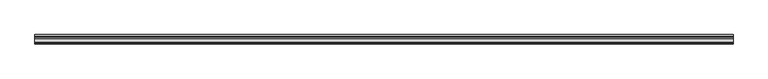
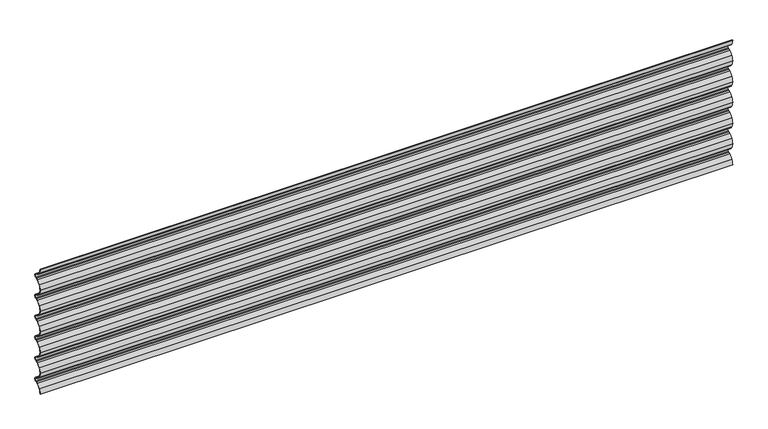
"""IFC4 building model written with IfcOpenShell, lengths in millimetres: plate geometry, Regolare Horizontal 534 : Regolare Horizontal 534."""

from ifc_helpers import new_model, si_unit, point, frame, frame_2d, origin, place, context, project, spatial, polyline, circle_curve, trimmed, segment, composite_curve, outline, extrude, source, transform, mapped, element, save


def plate_bd072c15(model_context):
    return source(origin(), model_context, "Body", "SweptSolid", [
        extrude(outline(composite_curve([segment(trimmed(circle_curve(frame_2d((38.4503244, 0.0)), 37.4503244), [point((6.5021495, 19.5407501))], [point((1.0, 0.0))], True, "CARTESIAN"), True, "CONTINUOUS"), segment(polyline([(1.0, 0.0), (0.0, 0.0)]), True, "CONTINUOUS"), segment(trimmed(circle_curve(frame_2d((38.4503244, 0.0)), 38.4503244), [point((0.0, 0.0))], [point((5.6490681, 20.062528))], False, "CARTESIAN"), True, "CONTINUOUS"), segment(trimmed(circle_curve(frame_2d((32.6206681, 3.5656452)), 31.6166783), [point((5.6490681, 20.062528))], [point((20.878867, 32.9211295))], False, "CARTESIAN"), True, "CONTINUOUS"), segment(polyline([(20.878867, 32.9211295), (28.0423924, 35.7903512), (31.4771017, 37.4367049)]), True, "CONTINUOUS"), segment(trimmed(circle_curve(frame_2d((28.0791236, 44.5257445)), 7.8613445), [point((31.4771017, 37.4367049))], [point((35.9404682, 44.5257445))], True, "CARTESIAN"), True, "CONTINUOUS"), segment(trimmed(circle_curve(frame_2d((28.0791236, 44.5257445)), 7.8613445), [point((35.9404682, 44.5257445))], [point((31.4771017, 51.6147842))], True, "CARTESIAN"), True, "CONTINUOUS"), segment(polyline([(31.4771017, 51.6147842), (28.0423924, 53.2611379), (20.878867, 56.1303596)]), True, "CONTINUOUS"), segment(trimmed(circle_curve(frame_2d((32.6206681, 85.4858438)), 31.6166783), [point((20.878867, 56.1303596))], [point((5.6490681, 68.9889611))], False, "CARTESIAN"), True, "CONTINUOUS"), segment(trimmed(circle_curve(frame_2d((38.4503244, 89.0514891)), 38.4503244), [point((5.6490681, 68.9889611))], [point((0.0, 89.0514891))], False, "CARTESIAN"), True, "CONTINUOUS"), segment(trimmed(circle_curve(frame_2d((38.4503244, 89.0514891)), 38.4503244), [point((0.0, 89.0514891))], [point((5.6490681, 109.1140171))], False, "CARTESIAN"), True, "CONTINUOUS"), segment(trimmed(circle_curve(frame_2d((32.6206681, 92.6171343)), 31.6166783), [point((5.6490681, 109.1140171))], [point((20.878867, 121.9726185))], False, "CARTESIAN"), True, "CONTINUOUS"), segment(polyline([(20.878867, 121.9726185), (28.0423924, 124.8418403), (31.4771017, 126.488194)]), True, "CONTINUOUS"), segment(trimmed(circle_curve(frame_2d((28.0791236, 133.5772336)), 7.8613445), [point((31.4771017, 126.488194))], [point((31.4771017, 140.6662733))], True, "CARTESIAN"), True, "CONTINUOUS"), segment(polyline([(31.4771017, 140.6662733), (28.0423924, 142.312627), (20.878867, 145.1818487)]), True, "CONTINUOUS"), segment(trimmed(circle_curve(frame_2d((32.6206681, 174.5373329)), 31.6166783), [point((20.878867, 145.1818487))], [point((5.6490681, 158.0404502))], False, "CARTESIAN"), True, "CONTINUOUS"), segment(trimmed(circle_curve(frame_2d((38.4503244, 178.1029782)), 38.4503244), [point((5.6490681, 158.0404502))], [point((0.0, 178.1029782))], False, "CARTESIAN"), True, "CONTINUOUS"), segment(trimmed(circle_curve(frame_2d((38.4503244, 178.1029782)), 38.4503244), [point((0.0, 178.1029782))], [point((5.6490681, 198.1655062))], False, "CARTESIAN"), True, "CONTINUOUS"), segment(trimmed(circle_curve(frame_2d((32.6206681, 181.6686234)), 31.6166783), [point((5.6490681, 198.1655062))], [point((20.878867, 211.0241076))], False, "CARTESIAN"), True, "CONTINUOUS"), segment(polyline([(20.878867, 211.0241076), (28.0423924, 213.8933293), (31.4771017, 215.5396831)]), True, "CONTINUOUS"), segment(trimmed(circle_curve(frame_2d((28.0791236, 222.6287227)), 7.8613445), [point((31.4771017, 215.5396831))], [point((31.4771017, 229.7177623))], True, "CARTESIAN"), True, "CONTINUOUS"), segment(polyline([(31.4771017, 229.7177623), (28.0423924, 231.3641161), (20.878867, 234.2333378)]), True, "CONTINUOUS"), segment(trimmed(circle_curve(frame_2d((32.6206681, 263.588822)), 31.6166783), [point((20.878867, 234.2333378))], [point((5.6490681, 247.0919392))], False, "CARTESIAN"), True, "CONTINUOUS"), segment(trimmed(circle_curve(frame_2d((38.4503244, 267.1544672)), 38.4503244), [point((5.6490681, 247.0919392))], [point((0.0, 267.1544672))], False, "CARTESIAN"), True, "CONTINUOUS"), segment(trimmed(circle_curve(frame_2d((38.4503244, 267.1544672)), 38.4503244), [point((0.0, 267.1544672))], [point((5.6490681, 287.2169952))], False, "CARTESIAN"), True, "CONTINUOUS"), segment(trimmed(circle_curve(frame_2d((32.6206681, 270.7201125)), 31.6166783), [point((5.6490681, 287.2169952))], [point((20.878867, 300.0755967))], False, "CARTESIAN"), True, "CONTINUOUS"), segment(polyline([(20.878867, 300.0755967), (28.0423924, 302.9448184), (31.4771017, 304.5911721)]), True, "CONTINUOUS"), segment(trimmed(circle_curve(frame_2d((28.0791236, 311.6802118)), 7.8613445), [point((31.4771017, 304.5911721))], [point((31.4771017, 318.7692514))], True, "CARTESIAN"), True, "CONTINUOUS"), segment(polyline([(31.4771017, 318.7692514), (28.0423924, 320.4156051), (20.878867, 323.2848269)]), True, "CONTINUOUS"), segment(trimmed(circle_curve(frame_2d((32.6206681, 352.6403111)), 31.6166783), [point((20.878867, 323.2848269))], [point((5.6490681, 336.1434283))], False, "CARTESIAN"), True, "CONTINUOUS"), segment(trimmed(circle_curve(frame_2d((38.4503244, 356.2059563)), 38.4503244), [point((5.6490681, 336.1434283))], [point((0.0, 356.2059563))], False, "CARTESIAN"), True, "CONTINUOUS"), segment(trimmed(circle_curve(frame_2d((38.4503244, 356.2059563)), 38.4503244), [point((0.0, 356.2059563))], [point((5.6490681, 376.2684843))], False, "CARTESIAN"), True, "CONTINUOUS"), segment(trimmed(circle_curve(frame_2d((32.6206681, 359.7716016)), 31.6166783), [point((5.6490681, 376.2684843))], [point((20.878867, 389.1270858))], False, "CARTESIAN"), True, "CONTINUOUS"), segment(polyline([(20.878867, 389.1270858), (28.0423924, 391.9963075), (31.4771017, 393.6426612)]), True, "CONTINUOUS"), segment(trimmed(circle_curve(frame_2d((28.0791236, 400.7317009)), 7.8613445), [point((31.4771017, 393.6426612))], [point((31.4771017, 407.8207405))], True, "CARTESIAN"), True, "CONTINUOUS"), segment(polyline([(31.4771017, 407.8207405), (28.0423924, 409.4670942), (20.878867, 412.3363159)]), True, "CONTINUOUS"), segment(trimmed(circle_curve(frame_2d((32.6206681, 441.6918002)), 31.6166783), [point((20.878867, 412.3363159))], [point((5.6490681, 425.1949174))], False, "CARTESIAN"), True, "CONTINUOUS"), segment(trimmed(circle_curve(frame_2d((38.4503244, 445.2574454)), 38.4503244), [point((5.6490681, 425.1949174))], [point((0.0, 445.2574454))], False, "CARTESIAN"), True, "CONTINUOUS"), segment(trimmed(circle_curve(frame_2d((38.4503244, 445.2574454)), 38.4503244), [point((0.0, 445.2574454))], [point((5.6490681, 465.3199734))], False, "CARTESIAN"), True, "CONTINUOUS"), segment(trimmed(circle_curve(frame_2d((32.6206681, 448.8230907)), 31.6166783), [point((5.6490681, 465.3199734))], [point((20.878867, 478.1785749))], False, "CARTESIAN"), True, "CONTINUOUS"), segment(polyline([(20.878867, 478.1785749), (28.0423924, 481.0477966), (31.4771017, 482.6941503)]), True, "CONTINUOUS"), segment(trimmed(circle_curve(frame_2d((28.0791236, 489.7831899)), 7.8613445), [point((31.4771017, 482.6941503))], [point((31.4771017, 496.8722296))], True, "CARTESIAN"), True, "CONTINUOUS"), segment(polyline([(31.4771017, 496.8722296), (28.0423924, 498.5185833), (20.878867, 501.387805)]), True, "CONTINUOUS"), segment(trimmed(circle_curve(frame_2d((32.6206681, 530.7432892)), 31.6166783), [point((20.878867, 501.387805))], [point((5.6490681, 514.2464065))], False, "CARTESIAN"), True, "CONTINUOUS"), segment(trimmed(circle_curve(frame_2d((38.4503244, 534.3089345)), 38.4503244), [point((5.6490681, 514.2464065))], [point((0.0, 534.3089345))], False, "CARTESIAN"), True, "CONTINUOUS"), segment(polyline([(0.0, 534.3089345), (1.0, 534.3089345)]), True, "CONTINUOUS"), segment(trimmed(circle_curve(frame_2d((38.4503244, 534.3089345)), 37.4503244), [point((1.0, 534.3089345))], [point((6.5021495, 514.7681843))], True, "CARTESIAN"), True, "CONTINUOUS"), segment(trimmed(circle_curve(frame_2d((32.6206681, 530.7432892)), 30.6166783), [point((6.5021495, 514.7681843))], [point((21.2504634, 502.3161994))], True, "CARTESIAN"), True, "CONTINUOUS"), segment(polyline([(21.2504634, 502.3161994), (28.4448583, 499.4346135), (31.9093405, 497.7739888)]), True, "CONTINUOUS"), segment(trimmed(circle_curve(frame_2d((28.0791236, 489.7831899)), 8.8613445), [point((31.9093405, 497.7739888))], [point((31.9093405, 481.7923911))], False, "CARTESIAN"), True, "CONTINUOUS"), segment(polyline([(31.9093405, 481.7923911), (28.4448583, 480.1317664), (21.2504634, 477.2501805)]), True, "CONTINUOUS"), segment(trimmed(circle_curve(frame_2d((32.6206681, 448.8230907)), 30.6166783), [point((21.2504634, 477.2501805))], [point((6.5021495, 464.7981955))], True, "CARTESIAN"), True, "CONTINUOUS"), segment(trimmed(circle_curve(frame_2d((38.4503244, 445.2574454)), 37.4503244), [point((6.5021495, 464.7981955))], [point((1.0, 445.2574454))], True, "CARTESIAN"), True, "CONTINUOUS"), segment(trimmed(circle_curve(frame_2d((38.4503244, 445.2574454)), 37.4503244), [point((1.0, 445.2574454))], [point((6.5021495, 425.7166953))], True, "CARTESIAN"), True, "CONTINUOUS"), segment(trimmed(circle_curve(frame_2d((32.6206681, 441.6918002)), 30.6166783), [point((6.5021495, 425.7166953))], [point((21.2504634, 413.2647103))], True, "CARTESIAN"), True, "CONTINUOUS"), segment(polyline([(21.2504634, 413.2647103), (28.4448583, 410.3831244), (31.9093405, 408.7224997)]), True, "CONTINUOUS"), segment(trimmed(circle_curve(frame_2d((28.0791236, 400.7317009)), 8.8613445), [point((31.9093405, 408.7224997))], [point((31.9093405, 392.740902))], False, "CARTESIAN"), True, "CONTINUOUS"), segment(polyline([(31.9093405, 392.740902), (28.4448583, 391.0802773), (21.2504634, 388.1986914)]), True, "CONTINUOUS"), segment(trimmed(circle_curve(frame_2d((32.6206681, 359.7716016)), 30.6166783), [point((21.2504634, 388.1986914))], [point((6.5021495, 375.7467065))], True, "CARTESIAN"), True, "CONTINUOUS"), segment(trimmed(circle_curve(frame_2d((38.4503244, 356.2059563)), 37.4503244), [point((6.5021495, 375.7467065))], [point((1.0, 356.2059563))], True, "CARTESIAN"), True, "CONTINUOUS"), segment(trimmed(circle_curve(frame_2d((38.4503244, 356.2059563)), 37.4503244), [point((1.0, 356.2059563))], [point((6.5021495, 336.6652062))], True, "CARTESIAN"), True, "CONTINUOUS"), segment(trimmed(circle_curve(frame_2d((32.6206681, 352.6403111)), 30.6166783), [point((6.5021495, 336.6652062))], [point((21.2504634, 324.2132212))], True, "CARTESIAN"), True, "CONTINUOUS"), segment(polyline([(21.2504634, 324.2132212), (28.4448583, 321.3316353), (31.9093405, 319.6710106)]), True, "CONTINUOUS"), segment(trimmed(circle_curve(frame_2d((28.0791236, 311.6802118)), 8.8613445), [point((31.9093405, 319.6710106))], [point((31.9093405, 303.689413))], False, "CARTESIAN"), True, "CONTINUOUS"), segment(polyline([(31.9093405, 303.689413), (28.4448583, 302.0287882), (21.2504634, 299.1472023)]), True, "CONTINUOUS"), segment(trimmed(circle_curve(frame_2d((32.6206681, 270.7201125)), 30.6166783), [point((21.2504634, 299.1472023))], [point((6.5021495, 286.6952174))], True, "CARTESIAN"), True, "CONTINUOUS"), segment(trimmed(circle_curve(frame_2d((38.4503244, 267.1544672)), 37.4503244), [point((6.5021495, 286.6952174))], [point((1.0, 267.1544672))], True, "CARTESIAN"), True, "CONTINUOUS"), segment(trimmed(circle_curve(frame_2d((38.4503244, 267.1544672)), 37.4503244), [point((1.0, 267.1544672))], [point((6.5021495, 247.6137171))], True, "CARTESIAN"), True, "CONTINUOUS"), segment(trimmed(circle_curve(frame_2d((32.6206681, 263.588822)), 30.6166783), [point((6.5021495, 247.6137171))], [point((21.2504634, 235.1617322))], True, "CARTESIAN"), True, "CONTINUOUS"), segment(polyline([(21.2504634, 235.1617322), (28.4448583, 232.2801463), (31.9093405, 230.6195215)]), True, "CONTINUOUS"), segment(trimmed(circle_curve(frame_2d((28.0791236, 222.6287227)), 8.8613445), [point((31.9093405, 230.6195215))], [point((31.9093405, 214.6379239))], False, "CARTESIAN"), True, "CONTINUOUS"), segment(polyline([(31.9093405, 214.6379239), (28.4448583, 212.9772992), (21.2504634, 210.0957132)]), True, "CONTINUOUS"), segment(trimmed(circle_curve(frame_2d((32.6206681, 181.6686234)), 30.6166783), [point((21.2504634, 210.0957132))], [point((6.5021495, 197.6437283))], True, "CARTESIAN"), True, "CONTINUOUS"), segment(trimmed(circle_curve(frame_2d((38.4503244, 178.1029782)), 37.4503244), [point((6.5021495, 197.6437283))], [point((1.0, 178.1029782))], True, "CARTESIAN"), True, "CONTINUOUS"), segment(trimmed(circle_curve(frame_2d((38.4503244, 178.1029782)), 37.4503244), [point((1.0, 178.1029782))], [point((6.5021495, 158.562228))], True, "CARTESIAN"), True, "CONTINUOUS"), segment(trimmed(circle_curve(frame_2d((32.6206681, 174.5373329)), 30.6166783), [point((6.5021495, 158.562228))], [point((21.2504634, 146.1102431))], True, "CARTESIAN"), True, "CONTINUOUS"), segment(polyline([(21.2504634, 146.1102431), (28.4448583, 143.2286572), (31.9093405, 141.5680324)]), True, "CONTINUOUS"), segment(trimmed(circle_curve(frame_2d((28.0791236, 133.5772336)), 8.8613445), [point((31.9093405, 141.5680324))], [point((31.9093405, 125.5864348))], False, "CARTESIAN"), True, "CONTINUOUS"), segment(polyline([(31.9093405, 125.5864348), (28.4448583, 123.9258101), (21.2504634, 121.0442242)]), True, "CONTINUOUS"), segment(trimmed(circle_curve(frame_2d((32.6206681, 92.6171343)), 30.6166783), [point((21.2504634, 121.0442242))], [point((6.5021495, 108.5922392))], True, "CARTESIAN"), True, "CONTINUOUS"), segment(trimmed(circle_curve(frame_2d((38.4503244, 89.0514891)), 37.4503244), [point((6.5021495, 108.5922392))], [point((1.0, 89.0514891))], True, "CARTESIAN"), True, "CONTINUOUS"), segment(trimmed(circle_curve(frame_2d((38.4503244, 89.0514891)), 37.4503244), [point((1.0, 89.0514891))], [point((6.5021495, 69.5107389))], True, "CARTESIAN"), True, "CONTINUOUS"), segment(trimmed(circle_curve(frame_2d((32.6206681, 85.4858438)), 30.6166783), [point((6.5021495, 69.5107389))], [point((21.2504634, 57.058754))], True, "CARTESIAN"), True, "CONTINUOUS"), segment(polyline([(21.2504634, 57.058754), (28.4448583, 54.1771681), (31.9093405, 52.5165434)]), True, "CONTINUOUS"), segment(trimmed(circle_curve(frame_2d((28.0791236, 44.5257445)), 8.8613445), [point((31.9093405, 52.5165434))], [point((36.9404682, 44.5257445))], False, "CARTESIAN"), True, "CONTINUOUS"), segment(trimmed(circle_curve(frame_2d((28.0791236, 44.5257445)), 8.8613445), [point((36.9404682, 44.5257445))], [point((31.9093405, 36.5349457))], False, "CARTESIAN"), True, "CONTINUOUS"), segment(polyline([(31.9093405, 36.5349457), (28.4448583, 34.874321), (21.2504634, 31.9927351)]), True, "CONTINUOUS"), segment(trimmed(circle_curve(frame_2d((32.6206681, 3.5656452)), 30.6166783), [point((21.2504634, 31.9927351))], [point((6.5021495, 19.5407501))], True, "CARTESIAN"), True, "CONTINUOUS")], self_intersect=False)), frame((-1407.0, 0.0, 0.0), z_axis=(1.0, 0.0, 0.0), x_axis=(0.0, 1.0, 0.0)), (0.0, 0.0, 1.0), 2814.0),
    ])


if __name__ == "__main__":
    model = new_model("IFC4")
    model_context = context("Model", 3, world=origin())
    ifc_project = project(units=[si_unit("LENGTHUNIT", "METRE", prefix="MILLI")], contexts=[model_context])
    site = spatial("IfcSite", under=ifc_project)
    building = spatial("IfcBuilding", under=site)
    placement = place(None, origin())
    plate_shape = plate_bd072c15(model_context)
    element("IfcPlate", 1, ObjectType="Regolare Horizontal 534 : Regolare Horizontal 534", at=placement, inside=building, context=model_context, shape_type="MappedRepresentation", body=[
        mapped(plate_shape, transform((0.0, 0.0, 0.0), x_axis=(1.0, 0.0, 0.0), y_axis=(0.0, 1.0, 0.0), z_axis=(0.0, 0.0, 1.0))),
    ])
    save(model, "model.ifc")
